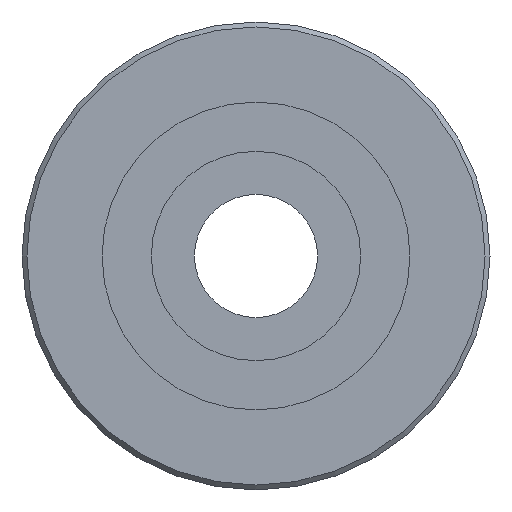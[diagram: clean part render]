
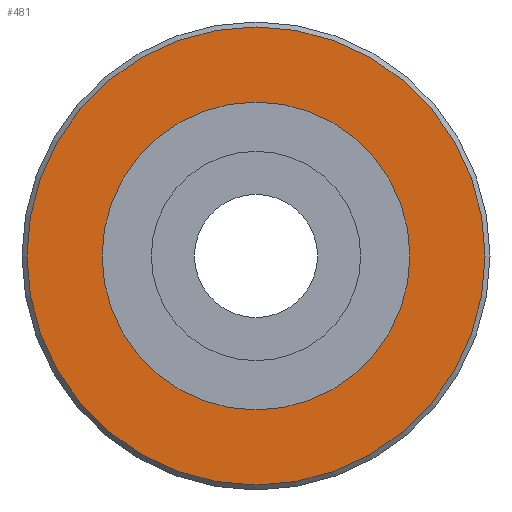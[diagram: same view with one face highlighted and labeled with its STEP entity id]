
A CAD part, left-side view. The second image highlights one B-rep face of the part: STEP entity #481.
In plain terms, the highlighted planar face has unit normal (-1, 0, 0).
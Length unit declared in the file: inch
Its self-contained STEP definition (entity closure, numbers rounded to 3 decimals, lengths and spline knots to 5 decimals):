
#454=CARTESIAN_POINT('',(10.75,33.3,0.));
#455=VERTEX_POINT('',#454);
#456=CARTESIAN_POINT('',(10.75,24.,0.));
#457=DIRECTION('',(-1.,0.,0.));
#458=DIRECTION('',(0.,1.,0.));
#459=AXIS2_PLACEMENT_3D('',#456,#457,#458);
#460=CIRCLE('',#459,9.3);
#461=EDGE_CURVE('',#455,#455,#460,.T.);
#462=ORIENTED_EDGE('',*,*,#461,.T.);
#463=EDGE_LOOP('',(#462));
#464=FACE_OUTER_BOUND('',#463,.T.);
#465=CARTESIAN_POINT('',(10.75,30.25,0.));
#466=VERTEX_POINT('',#465);
#467=CARTESIAN_POINT('',(10.75,24.,0.));
#468=DIRECTION('',(-1.,0.,0.));
#469=DIRECTION('',(0.,1.,0.));
#470=AXIS2_PLACEMENT_3D('',#467,#468,#469);
#471=CIRCLE('',#470,6.25);
#472=EDGE_CURVE('',#466,#466,#471,.T.);
#473=ORIENTED_EDGE('',*,*,#472,.F.);
#474=EDGE_LOOP('',(#473));
#475=FACE_BOUND('',#474,.T.);
#476=CARTESIAN_POINT('',(10.75,31.775,0.));
#477=DIRECTION('',(-1.,0.,0.));
#478=DIRECTION('',(0.,1.,0.));
#479=AXIS2_PLACEMENT_3D('',#476,#477,#478);
#480=PLANE('',#479);
#481=ADVANCED_FACE('',(#464,#475),#480,.T.);
